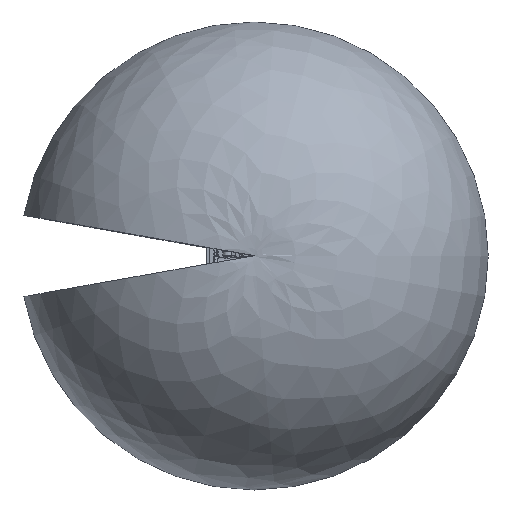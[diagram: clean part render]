
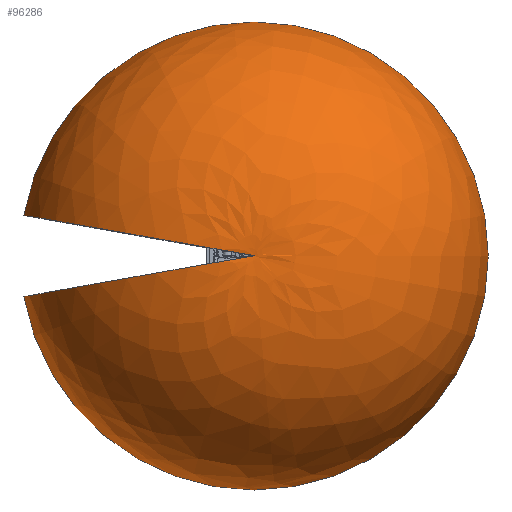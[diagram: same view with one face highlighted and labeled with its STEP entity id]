
A CAD part, top view. The second image highlights one B-rep face of the part: STEP entity #96286.
In plain terms, the highlighted free-form (B-spline) face has degree [2, 2] with [5, 9] control points.
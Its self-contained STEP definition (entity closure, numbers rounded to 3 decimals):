
#264=(
BOUNDED_SURFACE()
B_SPLINE_SURFACE(2,2,((#233720,#233721,#233722,#233723,#233724,#233725,
#233726,#233727,#233728),(#233729,#233730,#233731,#233732,#233733,#233734,
#233735,#233736,#233737),(#233738,#233739,#233740,#233741,#233742,#233743,
#233744,#233745,#233746),(#233747,#233748,#233749,#233750,#233751,#233752,
#233753,#233754,#233755),(#233756,#233757,#233758,#233759,#233760,#233761,
#233762,#233763,#233764)),.UNSPECIFIED.,.F.,.F.,.F.)
B_SPLINE_SURFACE_WITH_KNOTS((3,2,3),(3,2,2,2,3),(0.088,0.888,
1.688),(-2.967,-1.484,0.,
1.484,2.967),.UNSPECIFIED.)
GEOMETRIC_REPRESENTATION_ITEM()
RATIONAL_B_SPLINE_SURFACE(((1.,0.737,1.,0.737,1.,
0.737,1.,0.737,1.),(0.921,0.679,
0.921,0.679,0.921,0.679,0.921,
0.679,0.921),(1.,0.737,1.,0.737,
1.,0.737,1.,0.737,1.),(0.921,0.679,
0.921,0.679,0.921,0.679,
0.921,0.679,0.921),(1.,0.737,
1.,0.737,1.,0.737,1.,0.737,1.)))
REPRESENTATION_ITEM('')
SURFACE()
);
#8278=CIRCLE('',#105287,3047.311);
#8285=CIRCLE('',#105294,2737.787);
#8286=CIRCLE('',#105295,2737.787);
#14346=FACE_OUTER_BOUND('',#20932,.T.);
#20932=EDGE_LOOP('',(#86888,#86889,#86890));
#46245=VERTEX_POINT('',#233635);
#46246=VERTEX_POINT('',#233637);
#46250=VERTEX_POINT('',#233765);
#59791=EDGE_CURVE('',#46246,#46245,#8278,.T.);
#59798=EDGE_CURVE('',#46250,#46245,#8285,.T.);
#59799=EDGE_CURVE('',#46250,#46246,#8286,.T.);
#86888=ORIENTED_EDGE('',*,*,#59791,.T.);
#86889=ORIENTED_EDGE('',*,*,#59798,.F.);
#86890=ORIENTED_EDGE('',*,*,#59799,.T.);
#96286=ADVANCED_FACE('',(#14346),#264,.F.);
#105287=AXIS2_PLACEMENT_3D('',#233638,#130647,#130648);
#105294=AXIS2_PLACEMENT_3D('',#233766,#130661,#130662);
#105295=AXIS2_PLACEMENT_3D('',#233767,#130663,#130664);
#130647=DIRECTION('center_axis',(0.,0.,1.));
#130648=DIRECTION('ref_axis',(1.,0.,0.));
#130661=DIRECTION('center_axis',(-0.174,-0.985,
0.));
#130662=DIRECTION('ref_axis',(0.,0.,-1.));
#130663=DIRECTION('center_axis',(0.174,-0.985,0.));
#130664=DIRECTION('ref_axis',(0.,0.,-1.));
#233635=CARTESIAN_POINT('',(-3001.016,529.16,1019.269));
#233637=CARTESIAN_POINT('',(-3001.016,-529.16,1019.269));
#233638=CARTESIAN_POINT('Origin',(0.,0.,1019.269));
#233720=CARTESIAN_POINT('Ctrl Pts',(-3001.016,-529.16,
1019.269));
#233721=CARTESIAN_POINT('Ctrl Pts',(-2516.13,-3279.084,
1019.269));
#233722=CARTESIAN_POINT('Ctrl Pts',(265.591,-3035.715,
1019.269));
#233723=CARTESIAN_POINT('Ctrl Pts',(3047.311,-2792.346,
1019.269));
#233724=CARTESIAN_POINT('Ctrl Pts',(3047.311,0.,1019.269));
#233725=CARTESIAN_POINT('Ctrl Pts',(3047.311,2792.346,1019.269));
#233726=CARTESIAN_POINT('Ctrl Pts',(265.591,3035.715,1019.269));
#233727=CARTESIAN_POINT('Ctrl Pts',(-2516.13,3279.084,
1019.269));
#233728=CARTESIAN_POINT('Ctrl Pts',(-3001.016,529.16,
1019.269));
#233729=CARTESIAN_POINT('Ctrl Pts',(-2901.361,-511.588,
2172.712));
#233730=CARTESIAN_POINT('Ctrl Pts',(-2432.577,-3170.196,
2172.712));
#233731=CARTESIAN_POINT('Ctrl Pts',(256.771,-2934.908,
2172.712));
#233732=CARTESIAN_POINT('Ctrl Pts',(2946.119,-2699.621,
2172.712));
#233733=CARTESIAN_POINT('Ctrl Pts',(2946.119,0.,2172.712));
#233734=CARTESIAN_POINT('Ctrl Pts',(2946.119,2699.621,2172.712));
#233735=CARTESIAN_POINT('Ctrl Pts',(256.771,2934.908,2172.712));
#233736=CARTESIAN_POINT('Ctrl Pts',(-2432.577,3170.196,2172.712));
#233737=CARTESIAN_POINT('Ctrl Pts',(-2901.361,511.588,
2172.712));
#233738=CARTESIAN_POINT('Ctrl Pts',(-2016.914,-355.636,
2903.534));
#233739=CARTESIAN_POINT('Ctrl Pts',(-1691.033,-2203.797,
2903.534));
#233740=CARTESIAN_POINT('Ctrl Pts',(178.497,-2040.234,
2903.534));
#233741=CARTESIAN_POINT('Ctrl Pts',(2048.028,-1876.672,
2903.534));
#233742=CARTESIAN_POINT('Ctrl Pts',(2048.028,0.,2903.534));
#233743=CARTESIAN_POINT('Ctrl Pts',(2048.028,1876.672,2903.534));
#233744=CARTESIAN_POINT('Ctrl Pts',(178.497,2040.234,2903.534));
#233745=CARTESIAN_POINT('Ctrl Pts',(-1691.033,2203.797,
2903.534));
#233746=CARTESIAN_POINT('Ctrl Pts',(-2016.914,355.636,
2903.534));
#233747=CARTESIAN_POINT('Ctrl Pts',(-1132.466,-199.684,
3634.357));
#233748=CARTESIAN_POINT('Ctrl Pts',(-949.489,-1237.399,
3634.357));
#233749=CARTESIAN_POINT('Ctrl Pts',(100.224,-1145.561,
3634.357));
#233750=CARTESIAN_POINT('Ctrl Pts',(1149.936,-1053.723,
3634.357));
#233751=CARTESIAN_POINT('Ctrl Pts',(1149.936,0.,3634.357));
#233752=CARTESIAN_POINT('Ctrl Pts',(1149.936,1053.723,3634.357));
#233753=CARTESIAN_POINT('Ctrl Pts',(100.224,1145.561,3634.357));
#233754=CARTESIAN_POINT('Ctrl Pts',(-949.489,1237.399,
3634.357));
#233755=CARTESIAN_POINT('Ctrl Pts',(-1132.466,199.684,3634.357));
#233756=CARTESIAN_POINT('Ctrl Pts',(0.,0.,3499.021));
#233757=CARTESIAN_POINT('Ctrl Pts',(0.,0.,3499.021));
#233758=CARTESIAN_POINT('Ctrl Pts',(0.,0.,3499.021));
#233759=CARTESIAN_POINT('Ctrl Pts',(0.,0.,3499.021));
#233760=CARTESIAN_POINT('Ctrl Pts',(0.,0.,3499.021));
#233761=CARTESIAN_POINT('Ctrl Pts',(0.,0.,3499.021));
#233762=CARTESIAN_POINT('Ctrl Pts',(0.,0.,3499.021));
#233763=CARTESIAN_POINT('Ctrl Pts',(0.,0.,3499.021));
#233764=CARTESIAN_POINT('Ctrl Pts',(0.,0.,3499.021));
#233765=CARTESIAN_POINT('',(0.,0.,3499.021));
#233766=CARTESIAN_POINT('Origin',(-315.138,55.567,780.));
#233767=CARTESIAN_POINT('Origin',(-315.138,-55.567,780.));
